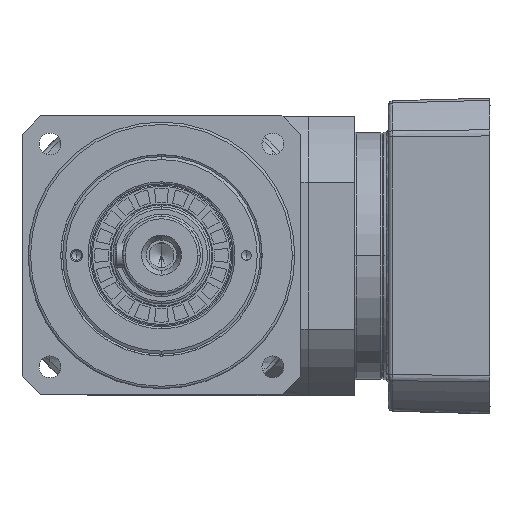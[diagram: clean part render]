
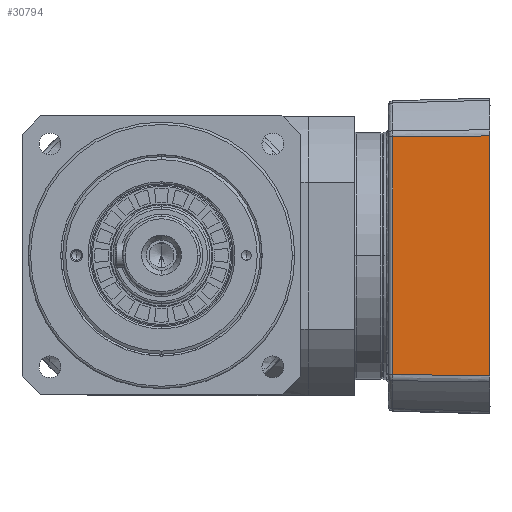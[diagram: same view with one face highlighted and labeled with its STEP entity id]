
A CAD part, top view. The second image highlights one B-rep face of the part: STEP entity #30794.
In plain terms, the highlighted planar face has unit normal (-0.026, 0, 1) as drawn and (-0.026, -1, 0) by its records, which use the part's own axes.
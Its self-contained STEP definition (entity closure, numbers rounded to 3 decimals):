
#1278 = EDGE_CURVE ( 'NONE', #45200, #68736, #16355, .T. ) ;
#2078 = CARTESIAN_POINT ( 'NONE',  ( -46766.354, -65., -49.409 ) ) ;
#3660 = VERTEX_POINT ( 'NONE', #2078 ) ;
#4975 = FACE_OUTER_BOUND ( 'NONE', #30129, .T. ) ;
#5251 = VERTEX_POINT ( 'NONE', #59579 ) ;
#5808 = DIRECTION ( 'NONE',  ( -1., 0.026, 0.009 ) ) ;
#6397 = CARTESIAN_POINT ( 'NONE',  ( -46766.354, -65., 50.806 ) ) ;
#7035 = AXIS2_PLACEMENT_3D ( 'NONE', #6397, #45934, #12142 ) ;
#12142 = DIRECTION ( 'NONE',  ( -1., 0.026, 0. ) ) ;
#16355 = LINE ( 'NONE', #68172, #58291 ) ;
#19815 = LINE ( 'NONE', #42234, #49753 ) ;
#21116 = CARTESIAN_POINT ( 'NONE',  ( -46806.406, -63.951, 49.037 ) ) ;
#22149 = ORIENTED_EDGE ( 'NONE', *, *, #58653, .F. ) ;
#27764 = CARTESIAN_POINT ( 'NONE',  ( -46766.354, -65., 49.409 ) ) ;
#28214 = EDGE_CURVE ( 'NONE', #5251, #45200, #41275, .T. ) ;
#30129 = EDGE_LOOP ( 'NONE', ( #61806, #32906, #22149, #43119 ) ) ;
#30794 = ADVANCED_FACE ( 'NONE', ( #4975 ), #56730, .F. ) ;
#31681 = DIRECTION ( 'NONE',  ( 0., 0., 1. ) ) ;
#32906 = ORIENTED_EDGE ( 'NONE', *, *, #28214, .F. ) ;
#35868 = VECTOR ( 'NONE', #5808, 1000. ) ;
#41275 = LINE ( 'NONE', #42946, #52677 ) ;
#41744 = DIRECTION ( 'NONE',  ( 0., 0., -1. ) ) ;
#42234 = CARTESIAN_POINT ( 'NONE',  ( -46766.354, -65., 50.806 ) ) ;
#42946 = CARTESIAN_POINT ( 'NONE',  ( -46806.406, -63.951, 50.806 ) ) ;
#43119 = ORIENTED_EDGE ( 'NONE', *, *, #50497, .F. ) ;
#45200 = VERTEX_POINT ( 'NONE', #21116 ) ;
#45447 = LINE ( 'NONE', #51010, #35868 ) ;
#45934 = DIRECTION ( 'NONE',  ( 0.026, 1., 0. ) ) ;
#49753 = VECTOR ( 'NONE', #41744, 1000. ) ;
#50497 = EDGE_CURVE ( 'NONE', #68736, #3660, #19815, .T. ) ;
#51010 = CARTESIAN_POINT ( 'NONE',  ( -46766.354, -65., -49.409 ) ) ;
#52677 = VECTOR ( 'NONE', #31681, 1000. ) ;
#56730 = PLANE ( 'NONE',  #7035 ) ;
#58291 = VECTOR ( 'NONE', #68012, 1000. ) ;
#58653 = EDGE_CURVE ( 'NONE', #3660, #5251, #45447, .T. ) ;
#59579 = CARTESIAN_POINT ( 'NONE',  ( -46806.406, -63.951, -49.037 ) ) ;
#61806 = ORIENTED_EDGE ( 'NONE', *, *, #1278, .F. ) ;
#68012 = DIRECTION ( 'NONE',  ( 1., -0.026, 0.009 ) ) ;
#68172 = CARTESIAN_POINT ( 'NONE',  ( -46806.406, -63.951, 49.037 ) ) ;
#68736 = VERTEX_POINT ( 'NONE', #27764 ) ;
